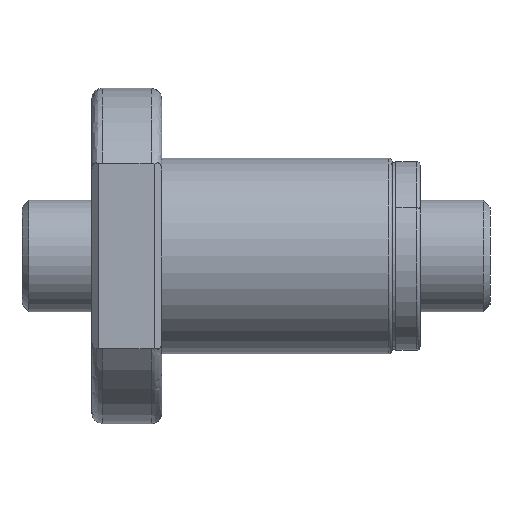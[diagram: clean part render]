
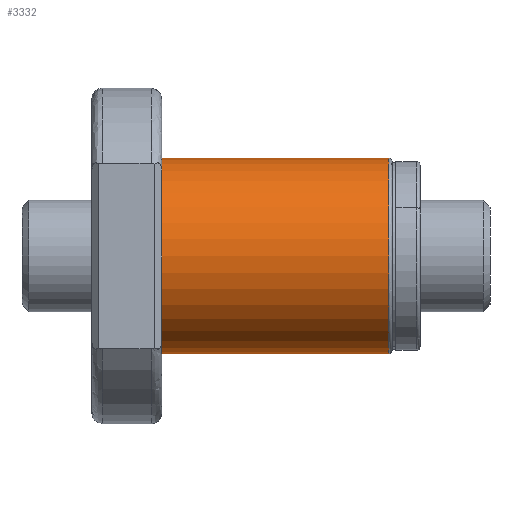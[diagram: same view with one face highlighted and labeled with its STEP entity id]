
A CAD part, front view. The second image highlights one B-rep face of the part: STEP entity #3332.
In plain terms, the highlighted cylindrical face has radius 14 mm (diameter 28 mm), a partial arc.
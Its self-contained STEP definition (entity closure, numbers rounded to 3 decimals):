
#195 = CARTESIAN_POINT ( 'NONE',  ( 42.5, 0., 14. ) ) ;
#490 = VERTEX_POINT ( 'NONE', #4193 ) ;
#497 = CARTESIAN_POINT ( 'NONE',  ( 10., 0., 14. ) ) ;
#564 = CIRCLE ( 'NONE', #4236, 14. ) ;
#568 = ORIENTED_EDGE ( 'NONE', *, *, #3327, .T. ) ;
#780 = FACE_OUTER_BOUND ( 'NONE', #4490, .T. ) ;
#1178 = CIRCLE ( 'NONE', #6475, 14. ) ;
#1227 = DIRECTION ( 'NONE',  ( -1., 0., 0. ) ) ;
#1310 = DIRECTION ( 'NONE',  ( 0., 0., 1. ) ) ;
#1647 = DIRECTION ( 'NONE',  ( -1., 0., 0. ) ) ;
#1911 = EDGE_CURVE ( 'NONE', #6758, #5858, #1178, .T. ) ;
#1921 = DIRECTION ( 'NONE',  ( -1., 0., 0. ) ) ;
#2365 = CARTESIAN_POINT ( 'NONE',  ( 0., 0., -14. ) ) ;
#2542 = CARTESIAN_POINT ( 'NONE',  ( 42.5, 0., 0. ) ) ;
#3327 = EDGE_CURVE ( 'NONE', #5858, #4230, #6143, .T. ) ;
#3332 = ADVANCED_FACE ( 'NONE', ( #780 ), #3616, .T. ) ;
#3496 = VECTOR ( 'NONE', #1227, 1000. ) ;
#3616 = CYLINDRICAL_SURFACE ( 'NONE', #5793, 14. ) ;
#4193 = CARTESIAN_POINT ( 'NONE',  ( 10., 0., -14. ) ) ;
#4230 = VERTEX_POINT ( 'NONE', #497 ) ;
#4236 = AXIS2_PLACEMENT_3D ( 'NONE', #5929, #4798, #6559 ) ;
#4490 = EDGE_LOOP ( 'NONE', ( #6036, #4661, #568, #5051 ) ) ;
#4661 = ORIENTED_EDGE ( 'NONE', *, *, #1911, .T. ) ;
#4798 = DIRECTION ( 'NONE',  ( 1., 0., 0. ) ) ;
#4843 = LINE ( 'NONE', #2365, #3496 ) ;
#5051 = ORIENTED_EDGE ( 'NONE', *, *, #6773, .T. ) ;
#5160 = CARTESIAN_POINT ( 'NONE',  ( 0., 0., 0. ) ) ;
#5715 = CARTESIAN_POINT ( 'NONE',  ( 0., 0., 14. ) ) ;
#5793 = AXIS2_PLACEMENT_3D ( 'NONE', #5160, #1647, #6801 ) ;
#5858 = VERTEX_POINT ( 'NONE', #195 ) ;
#5929 = CARTESIAN_POINT ( 'NONE',  ( 10., 0., 0. ) ) ;
#6036 = ORIENTED_EDGE ( 'NONE', *, *, #6186, .F. ) ;
#6143 = LINE ( 'NONE', #5715, #6322 ) ;
#6186 = EDGE_CURVE ( 'NONE', #6758, #490, #4843, .T. ) ;
#6322 = VECTOR ( 'NONE', #7483, 1000. ) ;
#6475 = AXIS2_PLACEMENT_3D ( 'NONE', #2542, #1921, #1310 ) ;
#6559 = DIRECTION ( 'NONE',  ( 0., 0., 1. ) ) ;
#6758 = VERTEX_POINT ( 'NONE', #7017 ) ;
#6773 = EDGE_CURVE ( 'NONE', #4230, #490, #564, .T. ) ;
#6801 = DIRECTION ( 'NONE',  ( 0., 0., 1. ) ) ;
#7017 = CARTESIAN_POINT ( 'NONE',  ( 42.5, 0., -14. ) ) ;
#7483 = DIRECTION ( 'NONE',  ( -1., 0., 0. ) ) ;
